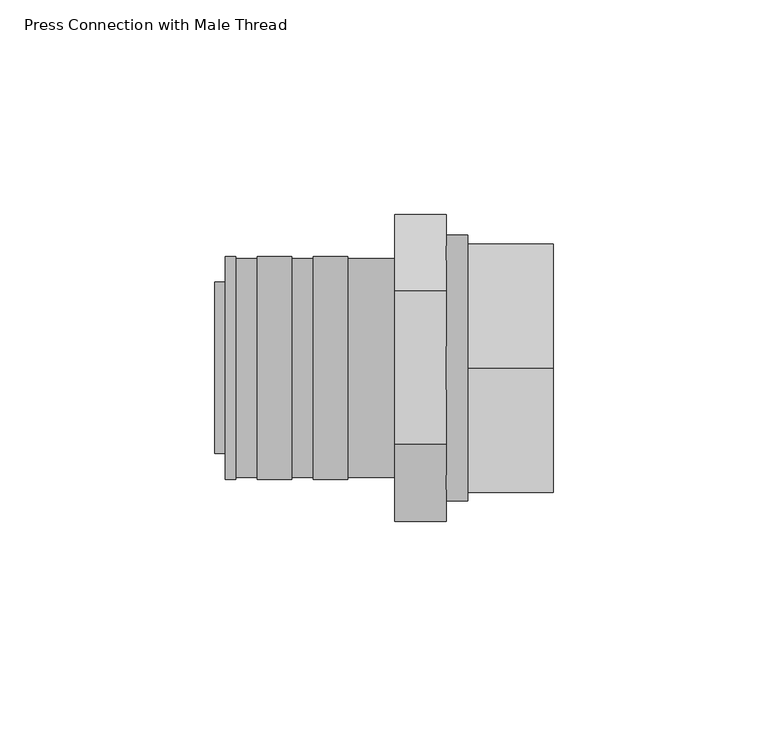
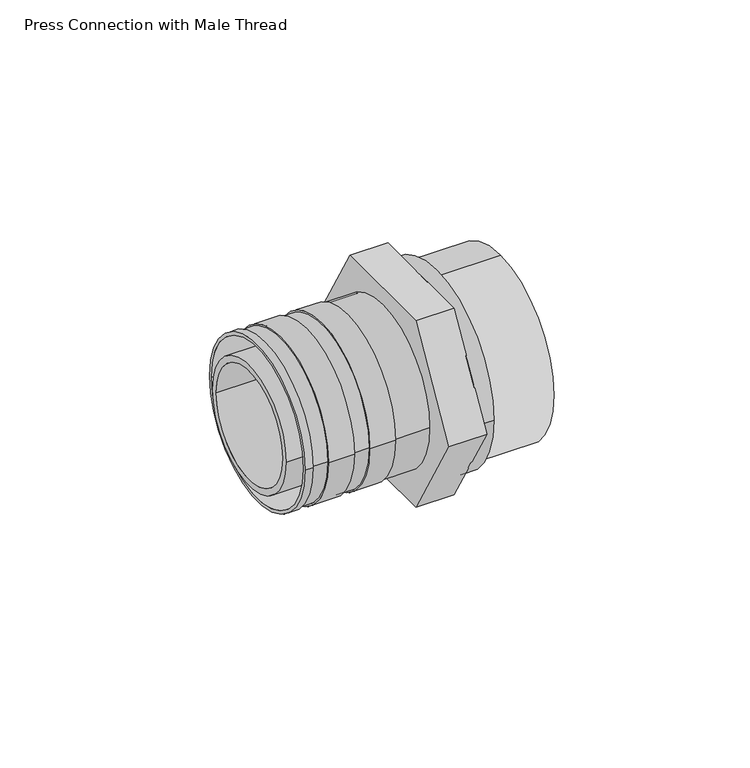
"""IFC4 building model written with IfcOpenShell, lengths in millimetres: pipe fitting geometry, Press Connection with Male Thread : Superpipe Press Connection - 50x2” MT."""

from ifc_helpers import new_model, si_unit, point, frame, origin, origin_2d, place, context, project, spatial, polyline, circle_curve, trimmed, segment, composite_curve, outline, extrude, source, transform, mapped, element, save
from ifc_brep_helpers import plane_surface, cylinder_surface, revolved_surface, advanced_brep


def press_connection_with_male_thread_3b10f8af(model_context):
    return source(origin(), model_context, "Body", "SolidModel", [
        extrude(outline(composite_curve([segment(trimmed(circle_curve(origin_2d(), 29.0), [point((0.0, -29.0))], [point((0.0, 29.0))], False, "CARTESIAN"), True, "CONTINUOUS"), segment(trimmed(circle_curve(origin_2d(), 29.0), [point((0.0, 29.0))], [point((0.0, -29.0))], False, "CARTESIAN"), True, "CONTINUOUS")], self_intersect=False), holes=[composite_curve([segment(trimmed(circle_curve(origin_2d(), 23.5), [point((0.0, -23.5))], [point((0.0, 23.5))], True, "CARTESIAN"), True, "CONTINUOUS"), segment(trimmed(circle_curve(origin_2d(), 23.5), [point((0.0, 23.5))], [point((0.0, -23.5))], True, "CARTESIAN"), True, "CONTINUOUS")], self_intersect=False)]), frame((59.0, 0.0, 0.0), z_axis=(1.0, 0.0, 0.0), x_axis=(0.0, 1.0, 0.0)), (0.0, 0.0, 1.0), 20.0),
        advanced_brep(
        [(2.5, 26.0, 0.0), (2.5, -26.0, 0.0), (2.5, 25.0, 0.0), (2.5, -25.0, 0.0), (42.0, -25.5, 0.0), (42.0, 25.5, 0.0), (42.0, 25.0, 0.0), (42.0, -25.0, 0.0), (5.0, 26.0, 0.0), (5.0, -26.0, 0.0), (31.0, 26.0, 0.0), (31.0, -26.0, 0.0), (23.0, -26.0, 0.0), (23.0, 26.0, 0.0), (18.0, 26.0, 0.0), (18.0, -26.0, 0.0), (10.0, -26.0, 0.0), (10.0, 26.0, 0.0), (31.0, 25.5, 0.0), (31.0, -25.5, 0.0), (23.0, -25.5, 0.0), (23.0, 25.5, 0.0), (18.0, 25.5, 0.0), (18.0, -25.5, 0.0), (10.0, -25.5, 0.0), (10.0, 25.5, 0.0), (5.0, 25.5, 0.0), (5.0, -25.5, 0.0)],
        [
            (0, 1, circle_curve(frame((2.5, 0.0, 0.0), z_axis=(-1.0, 0.0, 0.0), x_axis=(0.0, -1.0, 0.0)), 26.0)),
            (1, 0, circle_curve(frame((2.5, 0.0, 0.0), z_axis=(-1.0, 0.0, 0.0), x_axis=(0.0, -1.0, 0.0)), 26.0)),
            (2, 3, circle_curve(frame((2.5, 0.0, 0.0), z_axis=(1.0, 0.0, 0.0), x_axis=(0.0, -1.0, 0.0)), 25.0)),
            (3, 2, circle_curve(frame((2.5, 0.0, 0.0), z_axis=(1.0, 0.0, 0.0), x_axis=(0.0, -1.0, 0.0)), 25.0)),
            (4, 5, circle_curve(frame((42.0, 0.0, 0.0), z_axis=(1.0, 0.0, 0.0), x_axis=(0.0, 1.0, 0.0)), 25.5)),
            (5, 4, circle_curve(frame((42.0, 0.0, 0.0), z_axis=(1.0, 0.0, 0.0), x_axis=(0.0, 1.0, 0.0)), 25.5)),
            (6, 7, circle_curve(frame((42.0, 0.0, 0.0), z_axis=(-1.0, 0.0, 0.0), x_axis=(0.0, -1.0, 0.0)), 25.0)),
            (7, 6, circle_curve(frame((42.0, 0.0, 0.0), z_axis=(-1.0, 0.0, 0.0), x_axis=(0.0, -1.0, 0.0)), 25.0)),
            (0, 8),
            (8, 9, circle_curve(frame((5.0, 0.0, 0.0), z_axis=(-1.0, 0.0, 0.0), x_axis=(0.0, -1.0, 0.0)), 26.0)),
            (9, 1),
            (10, 11, circle_curve(frame((31.0, 0.0, 0.0), z_axis=(-1.0, 0.0, 0.0), x_axis=(0.0, -1.0, 0.0)), 26.0)),
            (11, 12),
            (12, 13, circle_curve(frame((23.0, 0.0, 0.0), z_axis=(1.0, 0.0, 0.0), x_axis=(0.0, -1.0, 0.0)), 26.0)),
            (13, 10),
            (14, 15, circle_curve(frame((18.0, 0.0, 0.0), z_axis=(-1.0, 0.0, 0.0), x_axis=(0.0, -1.0, 0.0)), 26.0)),
            (15, 16),
            (16, 17, circle_curve(frame((10.0, 0.0, 0.0), z_axis=(1.0, 0.0, 0.0), x_axis=(0.0, -1.0, 0.0)), 26.0)),
            (17, 14),
            (9, 8, circle_curve(frame((5.0, 0.0, 0.0), z_axis=(-1.0, 0.0, 0.0), x_axis=(0.0, -1.0, 0.0)), 26.0)),
            (11, 10, circle_curve(frame((31.0, 0.0, 0.0), z_axis=(-1.0, 0.0, 0.0), x_axis=(0.0, -1.0, 0.0)), 26.0)),
            (13, 12, circle_curve(frame((23.0, 0.0, 0.0), z_axis=(1.0, 0.0, 0.0), x_axis=(0.0, -1.0, 0.0)), 26.0)),
            (15, 14, circle_curve(frame((18.0, 0.0, 0.0), z_axis=(-1.0, 0.0, 0.0), x_axis=(0.0, -1.0, 0.0)), 26.0)),
            (17, 16, circle_curve(frame((10.0, 0.0, 0.0), z_axis=(1.0, 0.0, 0.0), x_axis=(0.0, -1.0, 0.0)), 26.0)),
            (2, 6),
            (7, 3),
            (18, 19, circle_curve(frame((31.0, 0.0, 0.0), z_axis=(-1.0, 0.0, 0.0), x_axis=(0.0, 1.0, 0.0)), 25.5)),
            (19, 11),
            (10, 18),
            (19, 18, circle_curve(frame((31.0, 0.0, 0.0), z_axis=(-1.0, 0.0, 0.0), x_axis=(0.0, 1.0, 0.0)), 25.5)),
            (18, 5),
            (4, 19),
            (20, 21, circle_curve(frame((23.0, 0.0, 0.0), z_axis=(1.0, 0.0, 0.0), x_axis=(0.0, 1.0, 0.0)), 25.5)),
            (21, 13),
            (12, 20),
            (21, 20, circle_curve(frame((23.0, 0.0, 0.0), z_axis=(1.0, 0.0, 0.0), x_axis=(0.0, 1.0, 0.0)), 25.5)),
            (22, 23, circle_curve(frame((18.0, 0.0, 0.0), z_axis=(-1.0, 0.0, 0.0), x_axis=(0.0, 1.0, 0.0)), 25.5)),
            (23, 15),
            (14, 22),
            (23, 22, circle_curve(frame((18.0, 0.0, 0.0), z_axis=(-1.0, 0.0, 0.0), x_axis=(0.0, 1.0, 0.0)), 25.5)),
            (20, 23),
            (22, 21),
            (24, 25, circle_curve(frame((10.0, 0.0, 0.0), z_axis=(1.0, 0.0, 0.0), x_axis=(0.0, 1.0, 0.0)), 25.5)),
            (25, 17),
            (16, 24),
            (25, 24, circle_curve(frame((10.0, 0.0, 0.0), z_axis=(1.0, 0.0, 0.0), x_axis=(0.0, 1.0, 0.0)), 25.5)),
            (26, 27, circle_curve(frame((5.0, 0.0, 0.0), z_axis=(-1.0, 0.0, 0.0), x_axis=(0.0, 1.0, 0.0)), 25.5)),
            (27, 9),
            (8, 26),
            (27, 26, circle_curve(frame((5.0, 0.0, 0.0), z_axis=(-1.0, 0.0, 0.0), x_axis=(0.0, 1.0, 0.0)), 25.5)),
            (24, 27),
            (26, 25),
        ],
        [
            plane_surface(frame((2.5, -26.0, 0.0), z_axis=(-1.0, 0.0, 0.0), x_axis=(0.0, 0.0, 1.0))),
            plane_surface(frame((42.0, -26.0, 0.0), z_axis=(1.0, 0.0, 0.0), x_axis=(0.0, 0.0, -1.0))),
            cylinder_surface(frame((42.0, 0.0, 0.0), z_axis=(-1.0, 0.0, 0.0), x_axis=(0.0, -1.0, 0.0)), 26.0),
            revolved_surface(polyline([(42.0, -25.0, 0.0), (2.5, -25.0, 0.0)]), (42.0, 0.0, 0.0), (1.0, 0.0, 0.0)),
            plane_surface(frame((31.0, 0.0, 0.0), z_axis=(1.0, 0.0, 0.0), x_axis=(0.0, 1.0, 0.0))),
            cylinder_surface(frame((2017.0, 0.0, 0.0), z_axis=(-1.0, 0.0, 0.0), x_axis=(0.0, 1.0, 0.0)), 25.5),
            plane_surface(frame((23.0, 0.0, 0.0), z_axis=(-1.0, 0.0, 0.0), x_axis=(0.0, 1.0, 0.0))),
            plane_surface(frame((18.0, 0.0, 0.0), z_axis=(1.0, 0.0, 0.0), x_axis=(0.0, 1.0, 0.0))),
            plane_surface(frame((10.0, 0.0, 0.0), z_axis=(-1.0, 0.0, 0.0), x_axis=(0.0, 1.0, 0.0))),
            plane_surface(frame((5.0, 0.0, 0.0), z_axis=(1.0, 0.0, 0.0), x_axis=(0.0, 1.0, 0.0))),
        ],
        [
            (0, [[1, 2], [3, 4]]),
            (1, [[5, 6], [7, 8]]),
            (2, [[-1, 9, 10, 11]]),
            (2, [[12, 13, 14, 15]]),
            (2, [[16, 17, 18, 19]]),
            (2, [[-2, -11, 20, -9]]),
            (2, [[21, -15, 22, -13]]),
            (2, [[23, -19, 24, -17]]),
            (3, [[-3, 25, -8, 26]]),
            (3, [[-4, -26, -7, -25]]),
            (4, [[27, 28, -12, 29]]),
            (4, [[30, -29, -21, -28]]),
            (5, [[-27, 31, -5, 32]]),
            (5, [[-30, -32, -6, -31]]),
            (6, [[33, 34, -14, 35]]),
            (6, [[36, -35, -22, -34]]),
            (7, [[37, 38, -16, 39]]),
            (7, [[40, -39, -23, -38]]),
            (5, [[-33, 41, -37, 42]]),
            (5, [[-36, -42, -40, -41]]),
            (8, [[43, 44, -18, 45]]),
            (8, [[46, -45, -24, -44]]),
            (9, [[47, 48, -10, 49]]),
            (9, [[50, -49, -20, -48]]),
            (5, [[-43, 51, -47, 52]]),
            (5, [[-46, -52, -50, -51]]),
        ],
    ),
        extrude(outline(composite_curve([segment(trimmed(circle_curve(origin_2d(), 31.0), [point((-31.0, 0.0))], [point((31.0, 0.0))], False, "CARTESIAN"), True, "CONTINUOUS"), segment(trimmed(circle_curve(origin_2d(), 31.0), [point((31.0, 0.0))], [point((-31.0, 0.0))], False, "CARTESIAN"), True, "CONTINUOUS")], self_intersect=False), holes=[composite_curve([segment(trimmed(circle_curve(origin_2d(), 23.5), [point((-23.5, 0.0))], [point((23.5, 0.0))], True, "CARTESIAN"), True, "CONTINUOUS"), segment(trimmed(circle_curve(origin_2d(), 23.5), [point((23.5, 0.0))], [point((-23.5, 0.0))], True, "CARTESIAN"), True, "CONTINUOUS")], self_intersect=False)]), frame((54.0, 0.0, 0.0), z_axis=(1.0, 0.0, 0.0), x_axis=(0.0, 1.0, 0.0)), (0.0, 0.0, 1.0), 5.0),
        extrude(outline(polyline([(-35.7957167, 0.0), (-17.8978583, 31.0), (17.8978583, 31.0), (35.7957167, 0.0), (17.8978583, -31.0), (-17.8978583, -31.0), (-35.7957167, 0.0)]), holes=[composite_curve([segment(trimmed(circle_curve(origin_2d(), 18.0), [point((18.0, 0.0))], [point((-18.0, 0.0))], True, "CARTESIAN"), True, "CONTINUOUS"), segment(trimmed(circle_curve(origin_2d(), 18.0), [point((-18.0, 0.0))], [point((18.0, 0.0))], True, "CARTESIAN"), True, "CONTINUOUS")], self_intersect=False)]), frame((42.0, 0.0, 0.0), z_axis=(1.0, 0.0, 0.0), x_axis=(0.0, 1.0, 0.0)), (0.0, 0.0, 1.0), 12.0),
        extrude(outline(composite_curve([segment(trimmed(circle_curve(origin_2d(), 20.0), [point((-20.0, 0.0))], [point((20.0, 0.0))], False, "CARTESIAN"), True, "CONTINUOUS"), segment(trimmed(circle_curve(origin_2d(), 20.0), [point((20.0, 0.0))], [point((-20.0, 0.0))], False, "CARTESIAN"), True, "CONTINUOUS")], self_intersect=False), holes=[composite_curve([segment(trimmed(circle_curve(origin_2d(), 18.0), [point((18.0, 0.0))], [point((-18.0, 0.0))], True, "CARTESIAN"), True, "CONTINUOUS"), segment(trimmed(circle_curve(origin_2d(), 18.0), [point((-18.0, 0.0))], [point((18.0, 0.0))], True, "CARTESIAN"), True, "CONTINUOUS")], self_intersect=False)]), frame((0.0, 0.0, 0.0), z_axis=(1.0, 0.0, 0.0), x_axis=(0.0, 1.0, 0.0)), (0.0, 0.0, 1.0), 42.0),
    ])


if __name__ == "__main__":
    model = new_model("IFC4")
    model_context = context("Model", 3, world=origin())
    ifc_project = project(units=[si_unit("LENGTHUNIT", "METRE", prefix="MILLI")], contexts=[model_context])
    site = spatial("IfcSite", under=ifc_project)
    building = spatial("IfcBuilding", under=site)
    placement = place(None, origin())
    press_connection_with_male_thread_shape = press_connection_with_male_thread_3b10f8af(model_context)
    element("IfcPipeFitting", 1, ObjectType="Press Connection with Male Thread : Superpipe Press Connection - 50x2” MT", at=placement, inside=building, context=model_context, shape_type="MappedRepresentation", body=[
        mapped(press_connection_with_male_thread_shape, transform((0.0, 0.0, 0.0), x_axis=(1.0, 0.0, 0.0), y_axis=(0.0, 1.0, 0.0), z_axis=(0.0, 0.0, 1.0))),
    ])
    save(model, "model.ifc")
